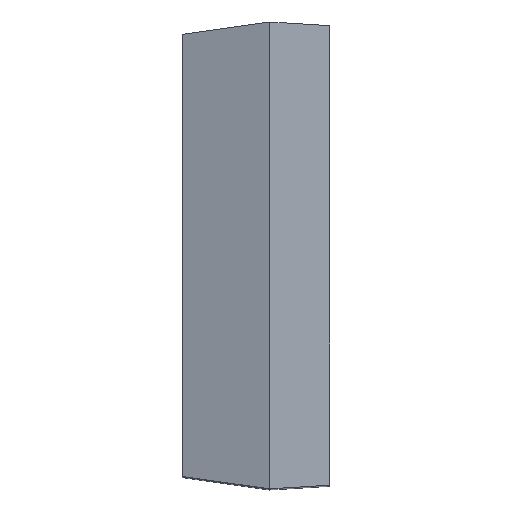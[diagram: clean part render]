
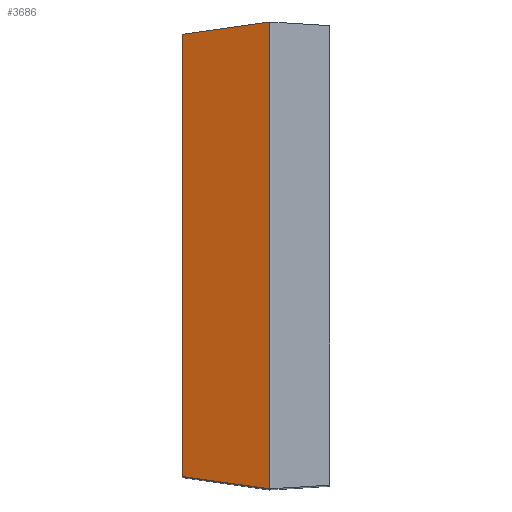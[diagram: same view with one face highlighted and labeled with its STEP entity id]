
A CAD part, top view. The second image highlights one B-rep face of the part: STEP entity #3686.
In plain terms, the highlighted planar face has unit normal (-0.301, 0, 0.954) as drawn and (0, 0.301, -0.954) by its records, which use the part's own axes.
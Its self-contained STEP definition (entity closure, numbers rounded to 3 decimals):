
#121=PLANE('',#4023);
#365=FACE_OUTER_BOUND('',#566,.T.);
#566=EDGE_LOOP('',(#2982,#2983,#2984,#2985));
#903=LINE('',#5565,#1398);
#904=LINE('',#5568,#1399);
#905=LINE('',#5570,#1400);
#906=LINE('',#5571,#1401);
#1398=VECTOR('',#4546,10.);
#1399=VECTOR('',#4549,10.);
#1400=VECTOR('',#4550,10.);
#1401=VECTOR('',#4551,10.);
#1854=VERTEX_POINT('',#5549);
#1858=VERTEX_POINT('',#5563);
#1859=VERTEX_POINT('',#5567);
#1860=VERTEX_POINT('',#5569);
#2267=EDGE_CURVE('',#1858,#1854,#903,.T.);
#2268=EDGE_CURVE('',#1854,#1859,#904,.T.);
#2269=EDGE_CURVE('',#1859,#1860,#905,.T.);
#2270=EDGE_CURVE('',#1860,#1858,#906,.T.);
#2982=ORIENTED_EDGE('',*,*,#2268,.T.);
#2983=ORIENTED_EDGE('',*,*,#2269,.T.);
#2984=ORIENTED_EDGE('',*,*,#2270,.T.);
#2985=ORIENTED_EDGE('',*,*,#2267,.T.);
#3686=ADVANCED_FACE('',(#365),#121,.T.);
#4023=AXIS2_PLACEMENT_3D('',#5566,#4547,#4548);
#4546=DIRECTION('',(-1.,0.,0.));
#4547=DIRECTION('center_axis',(0.,0.301,-0.954));
#4548=DIRECTION('ref_axis',(-1.,0.,0.));
#4549=DIRECTION('',(0.133,0.945,0.298));
#4550=DIRECTION('',(1.,0.,0.));
#4551=DIRECTION('',(0.133,-0.945,-0.298));
#5549=CARTESIAN_POINT('',(-7.97,2.035,-11.72));
#5563=CARTESIAN_POINT('',(7.97,2.035,-11.72));
#5565=CARTESIAN_POINT('',(-16.6,2.035,-11.72));
#5566=CARTESIAN_POINT('Origin',(-16.6,3.528,-11.249));
#5567=CARTESIAN_POINT('',(-7.55,5.02,-10.779));
#5568=CARTESIAN_POINT('',(-7.52,5.237,-10.71));
#5569=CARTESIAN_POINT('',(7.55,5.02,-10.779));
#5570=CARTESIAN_POINT('',(-16.6,5.02,-10.779));
#5571=CARTESIAN_POINT('',(7.418,5.962,-10.482));
